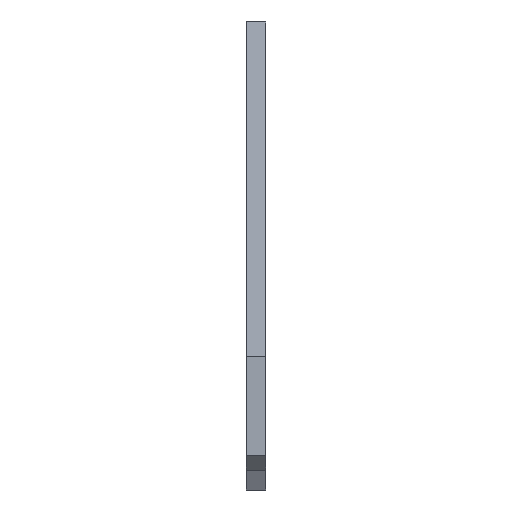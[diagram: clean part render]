
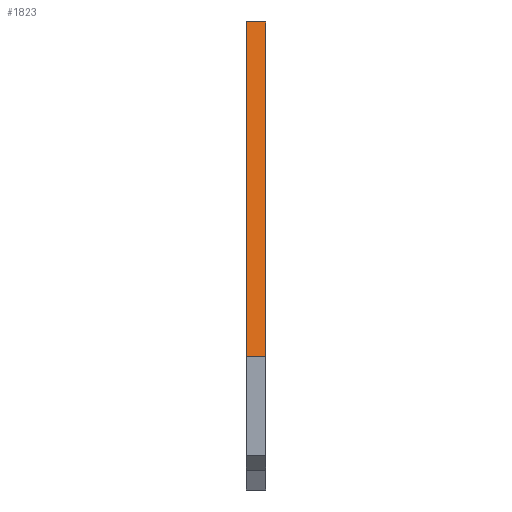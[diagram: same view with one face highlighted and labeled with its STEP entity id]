
A CAD part, front view. The second image highlights one B-rep face of the part: STEP entity #1823.
In plain terms, the highlighted planar face has unit normal (0, -0.988, 0.154).
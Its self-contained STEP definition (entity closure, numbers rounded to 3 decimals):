
#44 = PLANE('',#45);
#45 = AXIS2_PLACEMENT_3D('',#46,#47,#48);
#46 = CARTESIAN_POINT('',(47.,-27.8,-277.));
#47 = DIRECTION('',(-0.,1.,0.));
#48 = DIRECTION('',(0.,0.,-1.));
#72 = PLANE('',#73);
#73 = AXIS2_PLACEMENT_3D('',#74,#75,#76);
#74 = CARTESIAN_POINT('',(51.,31.229,-258.419));
#75 = DIRECTION('',(1.,0.,0.));
#76 = DIRECTION('',(-0.,0.,1.));
#126 = PLANE('',#127);
#127 = AXIS2_PLACEMENT_3D('',#128,#129,#130);
#128 = CARTESIAN_POINT('',(47.,31.229,-258.419));
#129 = DIRECTION('',(1.,0.,0.));
#130 = DIRECTION('',(-0.,0.,1.));
#141 = EDGE_CURVE('',#142,#144,#146,.T.);
#142 = VERTEX_POINT('',#143);
#143 = CARTESIAN_POINT('',(47.,-27.8,-277.));
#144 = VERTEX_POINT('',#145);
#145 = CARTESIAN_POINT('',(51.,-27.8,-277.));
#146 = SURFACE_CURVE('',#147,(#151,#158),.PCURVE_S1.);
#147 = LINE('',#148,#149);
#148 = CARTESIAN_POINT('',(47.,-27.8,-277.));
#149 = VECTOR('',#150,1.);
#150 = DIRECTION('',(1.,0.,0.));
#151 = PCURVE('',#44,#152);
#152 = DEFINITIONAL_REPRESENTATION('',(#153),#157);
#153 = LINE('',#154,#155);
#154 = CARTESIAN_POINT('',(0.,0.));
#155 = VECTOR('',#156,1.);
#156 = DIRECTION('',(0.,-1.));
#157 = ( GEOMETRIC_REPRESENTATION_CONTEXT(2) 
PARAMETRIC_REPRESENTATION_CONTEXT() REPRESENTATION_CONTEXT('2D SPACE',''
  ) );
#158 = PCURVE('',#159,#164);
#159 = PLANE('',#160);
#160 = AXIS2_PLACEMENT_3D('',#161,#162,#163);
#161 = CARTESIAN_POINT('',(47.,-17.3,-209.637));
#162 = DIRECTION('',(0.,0.988,-0.154));
#163 = DIRECTION('',(0.,-0.154,-0.988));
#164 = DEFINITIONAL_REPRESENTATION('',(#165),#169);
#165 = LINE('',#166,#167);
#166 = CARTESIAN_POINT('',(68.177,0.));
#167 = VECTOR('',#168,1.);
#168 = DIRECTION('',(0.,-1.));
#169 = ( GEOMETRIC_REPRESENTATION_CONTEXT(2) 
PARAMETRIC_REPRESENTATION_CONTEXT() REPRESENTATION_CONTEXT('2D SPACE',''
  ) );
#543 = VERTEX_POINT('',#544);
#544 = CARTESIAN_POINT('',(47.,-17.3,-209.637));
#558 = PLANE('',#559);
#559 = AXIS2_PLACEMENT_3D('',#560,#561,#562);
#560 = CARTESIAN_POINT('',(47.,14.7,-209.637));
#561 = DIRECTION('',(0.,0.,-1.));
#562 = DIRECTION('',(0.,-1.,0.));
#570 = EDGE_CURVE('',#543,#142,#571,.T.);
#571 = SURFACE_CURVE('',#572,(#576,#583),.PCURVE_S1.);
#572 = LINE('',#573,#574);
#573 = CARTESIAN_POINT('',(47.,-17.3,-209.637));
#574 = VECTOR('',#575,1.);
#575 = DIRECTION('',(0.,-0.154,-0.988));
#576 = PCURVE('',#126,#577);
#577 = DEFINITIONAL_REPRESENTATION('',(#578),#582);
#578 = LINE('',#579,#580);
#579 = CARTESIAN_POINT('',(48.782,48.529));
#580 = VECTOR('',#581,1.);
#581 = DIRECTION('',(-0.988,0.154));
#582 = ( GEOMETRIC_REPRESENTATION_CONTEXT(2) 
PARAMETRIC_REPRESENTATION_CONTEXT() REPRESENTATION_CONTEXT('2D SPACE',''
  ) );
#583 = PCURVE('',#159,#584);
#584 = DEFINITIONAL_REPRESENTATION('',(#585),#589);
#585 = LINE('',#586,#587);
#586 = CARTESIAN_POINT('',(0.,0.));
#587 = VECTOR('',#588,1.);
#588 = DIRECTION('',(1.,0.));
#589 = ( GEOMETRIC_REPRESENTATION_CONTEXT(2) 
PARAMETRIC_REPRESENTATION_CONTEXT() REPRESENTATION_CONTEXT('2D SPACE',''
  ) );
#1330 = VERTEX_POINT('',#1331);
#1331 = CARTESIAN_POINT('',(51.,-17.3,-209.637));
#1352 = EDGE_CURVE('',#1330,#144,#1353,.T.);
#1353 = SURFACE_CURVE('',#1354,(#1358,#1365),.PCURVE_S1.);
#1354 = LINE('',#1355,#1356);
#1355 = CARTESIAN_POINT('',(51.,-17.3,-209.637));
#1356 = VECTOR('',#1357,1.);
#1357 = DIRECTION('',(0.,-0.154,-0.988));
#1358 = PCURVE('',#72,#1359);
#1359 = DEFINITIONAL_REPRESENTATION('',(#1360),#1364);
#1360 = LINE('',#1361,#1362);
#1361 = CARTESIAN_POINT('',(48.782,48.529));
#1362 = VECTOR('',#1363,1.);
#1363 = DIRECTION('',(-0.988,0.154));
#1364 = ( GEOMETRIC_REPRESENTATION_CONTEXT(2) 
PARAMETRIC_REPRESENTATION_CONTEXT() REPRESENTATION_CONTEXT('2D SPACE',''
  ) );
#1365 = PCURVE('',#159,#1366);
#1366 = DEFINITIONAL_REPRESENTATION('',(#1367),#1371);
#1367 = LINE('',#1368,#1369);
#1368 = CARTESIAN_POINT('',(0.,-4.));
#1369 = VECTOR('',#1370,1.);
#1370 = DIRECTION('',(1.,0.));
#1371 = ( GEOMETRIC_REPRESENTATION_CONTEXT(2) 
PARAMETRIC_REPRESENTATION_CONTEXT() REPRESENTATION_CONTEXT('2D SPACE',''
  ) );
#1823 = ADVANCED_FACE('',(#1824),#159,.F.);
#1824 = FACE_BOUND('',#1825,.F.);
#1825 = EDGE_LOOP('',(#1826,#1847,#1848,#1849));
#1826 = ORIENTED_EDGE('',*,*,#1827,.T.);
#1827 = EDGE_CURVE('',#543,#1330,#1828,.T.);
#1828 = SURFACE_CURVE('',#1829,(#1833,#1840),.PCURVE_S1.);
#1829 = LINE('',#1830,#1831);
#1830 = CARTESIAN_POINT('',(47.,-17.3,-209.637));
#1831 = VECTOR('',#1832,1.);
#1832 = DIRECTION('',(1.,0.,0.));
#1833 = PCURVE('',#159,#1834);
#1834 = DEFINITIONAL_REPRESENTATION('',(#1835),#1839);
#1835 = LINE('',#1836,#1837);
#1836 = CARTESIAN_POINT('',(0.,0.));
#1837 = VECTOR('',#1838,1.);
#1838 = DIRECTION('',(0.,-1.));
#1839 = ( GEOMETRIC_REPRESENTATION_CONTEXT(2) 
PARAMETRIC_REPRESENTATION_CONTEXT() REPRESENTATION_CONTEXT('2D SPACE',''
  ) );
#1840 = PCURVE('',#558,#1841);
#1841 = DEFINITIONAL_REPRESENTATION('',(#1842),#1846);
#1842 = LINE('',#1843,#1844);
#1843 = CARTESIAN_POINT('',(32.,0.));
#1844 = VECTOR('',#1845,1.);
#1845 = DIRECTION('',(0.,-1.));
#1846 = ( GEOMETRIC_REPRESENTATION_CONTEXT(2) 
PARAMETRIC_REPRESENTATION_CONTEXT() REPRESENTATION_CONTEXT('2D SPACE',''
  ) );
#1847 = ORIENTED_EDGE('',*,*,#1352,.T.);
#1848 = ORIENTED_EDGE('',*,*,#141,.F.);
#1849 = ORIENTED_EDGE('',*,*,#570,.F.);
